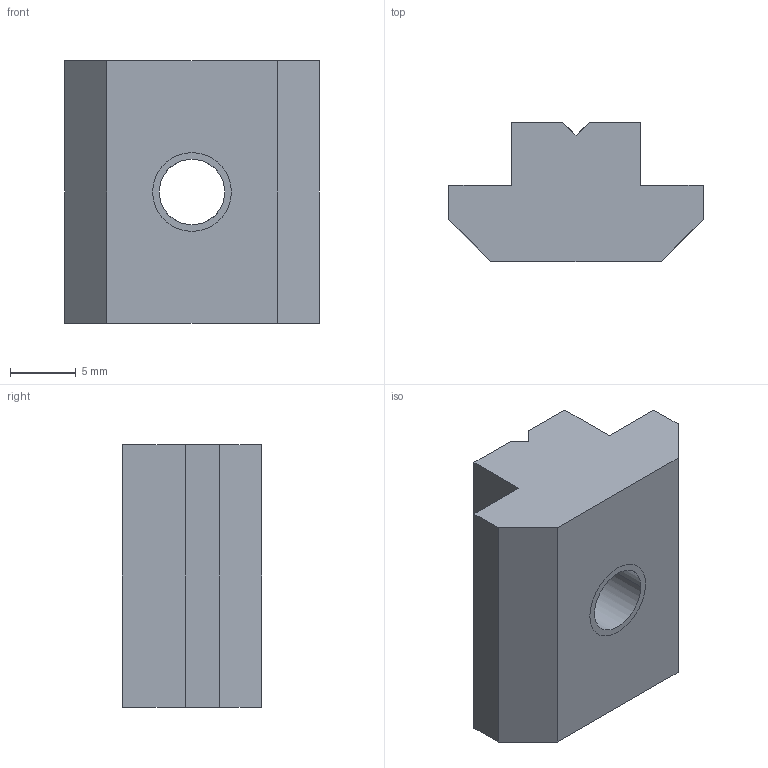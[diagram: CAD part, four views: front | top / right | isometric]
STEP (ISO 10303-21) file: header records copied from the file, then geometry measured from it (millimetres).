
FILE_DESCRIPTION((''),'2;1');
FILE_NAME('DAT0610','2002-12-27T',('Lipro doo'),('Lipro d.o.o.'),'PRO/ENGINEER BY PARAMETRIC TECHNOLOGY CORPORATION, 2001150','PRO/ENGINEER BY PARAMETRIC TECHNOLOGY CORPORATION, 2001150','');
FILE_SCHEMA(('CONFIG_CONTROL_DESIGN'));
Length unit declared in the file: millimetre
Products named in the file (1): DAT0610
Bounding box: 19.4 x 10.6 x 20 mm (x, y, z)
Volume: 2760.5 mm3; surface area: 1750.8 mm2
Topology: 1 solids, 2 shells, 23 faces, 72 edges, 50 vertices
Faces by surface type: plane 17, cylinder 4, cone 2
Entity records: 854 total; most frequent: CARTESIAN_POINT 174, ORIENTED_EDGE 134, DIRECTION 122, EDGE_CURVE 72, VERTEX_POINT 50, VECTOR 46, LINE 46, AXIS2_PLACEMENT_3D 38
